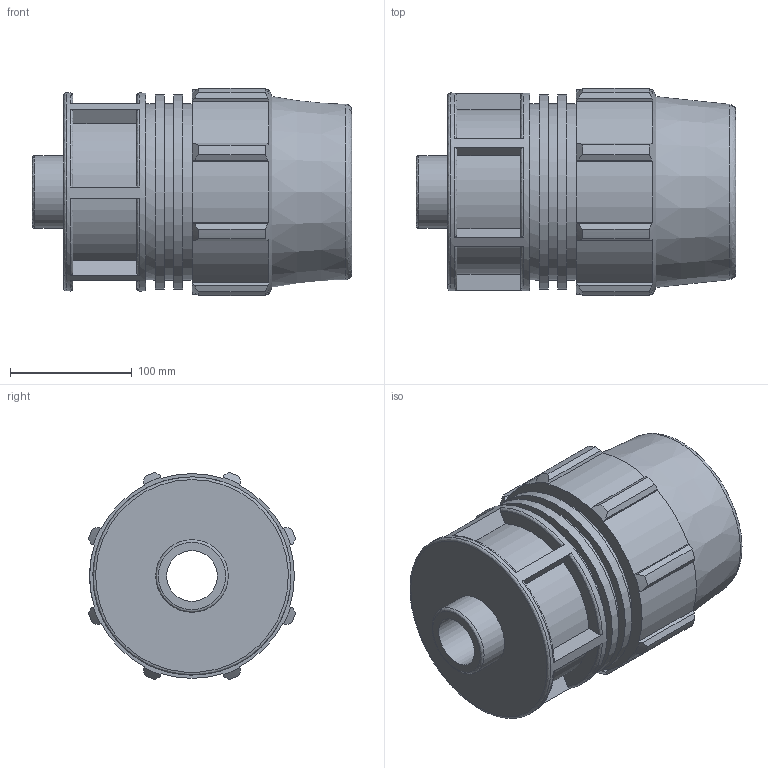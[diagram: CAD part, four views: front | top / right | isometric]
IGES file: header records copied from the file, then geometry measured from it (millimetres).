
Global section: file name: 870200110020_180200110020_840206110020.ipt; native system: Autodesk Inventor 2015; preprocessor: unknown; author: KIM; date: 20180325.201145; units: millimetre
Bounding box: 263 x 170.31 x 170.31 mm (x, y, z)
Volume: 2383002.8 mm3; surface area: 283933.2 mm2
Topology: 1 solids, 1 shells, 125 faces, 333 edges, 224 vertices
Faces by surface type: plane 67, cylinder 29, revolution 19, cone 10
Full cylindrical faces by diameter (mm): 59.614 x1, 144.8 x3, 159.642 x2, 162.9 x1
